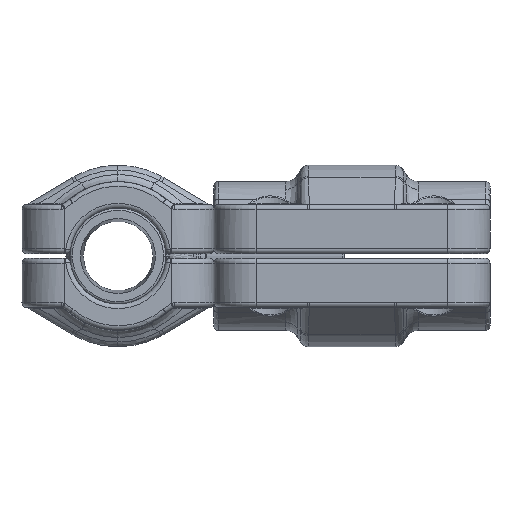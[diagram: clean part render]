
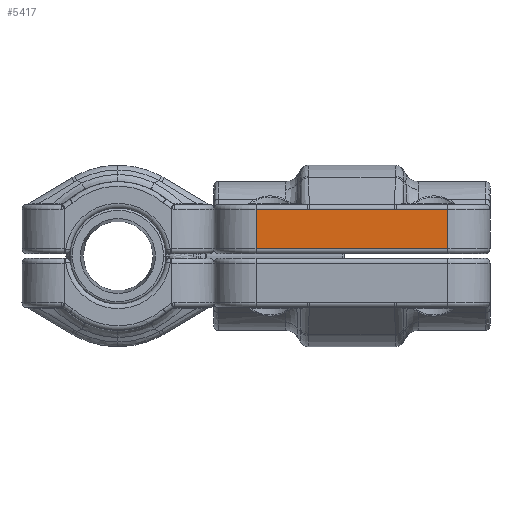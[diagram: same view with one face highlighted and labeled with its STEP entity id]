
A CAD part, left-side view. The second image highlights one B-rep face of the part: STEP entity #5417.
In plain terms, the highlighted planar face has unit normal (-1, 0, 0) as drawn and (0, -1, 0) by its records, which use the part's own axes.
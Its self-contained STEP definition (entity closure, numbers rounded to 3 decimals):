
#2464=DIRECTION('',(-1.,0.,0.));
#2465=VECTOR('',#2464,18.274);
#2466=CARTESIAN_POINT('',(9.137,-20.5,10.002));
#2467=LINE('',#2466,#2465);
#2473=CARTESIAN_POINT('',(9.569,-20.5,10.));
#2474=CARTESIAN_POINT('',(9.421,-20.5,10.));
#2475=CARTESIAN_POINT('',(9.279,-20.5,10.002));
#2476=CARTESIAN_POINT('',(9.137,-20.5,10.002));
#2584=CARTESIAN_POINT('',(-9.137,-20.5,
10.002));
#2585=CARTESIAN_POINT('',(-9.18,-20.5,
10.002));
#2586=CARTESIAN_POINT('',(-9.27,-20.5,
10.001));
#2587=CARTESIAN_POINT('',(-9.414,-20.5,
10.002));
#2588=CARTESIAN_POINT('',(-9.516,-20.5,
10.));
#2589=CARTESIAN_POINT('',(-9.569,-20.5,
10.));
#2595=DIRECTION('',(1.,0.,0.));
#2596=VECTOR('',#2595,41.);
#2597=CARTESIAN_POINT('',(-20.5,-20.5,1.5));
#2598=LINE('',#2597,#2596);
#2707=DIRECTION('',(0.,0.,1.));
#2708=VECTOR('',#2707,8.5);
#2709=CARTESIAN_POINT('',(20.5,-20.5,1.5));
#2710=LINE('',#2709,#2708);
#2774=DIRECTION('',(-1.,0.,0.));
#2775=VECTOR('',#2774,10.931);
#2776=CARTESIAN_POINT('',(20.5,-20.5,10.));
#2777=LINE('',#2776,#2775);
#3215=DIRECTION('',(-1.,0.,0.));
#3216=VECTOR('',#3215,10.931);
#3217=CARTESIAN_POINT('',(-9.569,-20.5,
10.));
#3218=LINE('',#3217,#3216);
#3223=DIRECTION('',(0.,0.,-1.));
#3224=VECTOR('',#3223,8.5);
#3225=CARTESIAN_POINT('',(-20.5,-20.5,10.));
#3226=LINE('',#3225,#3224);
#4833=CARTESIAN_POINT('',(-20.5,-20.5,1.5));
#4834=VERTEX_POINT('',#4833);
#4836=CARTESIAN_POINT('',(-20.5,-20.5,10.));
#4837=VERTEX_POINT('',#4836);
#4921=CARTESIAN_POINT('',(20.5,-20.5,1.5));
#4922=VERTEX_POINT('',#4921);
#4923=CARTESIAN_POINT('',(20.5,-20.5,10.));
#4924=VERTEX_POINT('',#4923);
#4925=CARTESIAN_POINT('',(-9.569,-20.5,
10.));
#4926=VERTEX_POINT('',#4925);
#4927=VERTEX_POINT('',#2584);
#4928=CARTESIAN_POINT('',(9.137,-20.5,10.002));
#4929=VERTEX_POINT('',#4928);
#4930=VERTEX_POINT('',#2473);
#5397=CARTESIAN_POINT('',(29.5,-20.5,11.));
#5398=DIRECTION('',(0.,1.,0.));
#5399=DIRECTION('',(1.,0.,0.));
#5400=AXIS2_PLACEMENT_3D('',#5397,#5398,#5399);
#5401=PLANE('',#5400);
#5403=ORIENTED_EDGE('',*,*,#5402,.F.);
#5405=ORIENTED_EDGE('',*,*,#5404,.F.);
#5407=ORIENTED_EDGE('',*,*,#5406,.F.);
#5408=ORIENTED_EDGE('',*,*,#5383,.F.);
#5409=ORIENTED_EDGE('',*,*,#5017,.F.);
#5410=ORIENTED_EDGE('',*,*,#5064,.F.);
#5412=ORIENTED_EDGE('',*,*,#5411,.F.);
#5414=ORIENTED_EDGE('',*,*,#5413,.F.);
#5415=EDGE_LOOP('',(#5403,#5405,#5407,#5408,#5409,#5410,#5412,#5414));
#5416=FACE_OUTER_BOUND('',#5415,.F.);
#2477=B_SPLINE_CURVE_WITH_KNOTS('',3,(#2473,#2474,#2475,#2476),.UNSPECIFIED.,
.F.,.F.,(4,4),(0.,1.),.UNSPECIFIED.);
#2590=B_SPLINE_CURVE_WITH_KNOTS('',3,(#2584,#2585,#2586,#2587,#2588,#2589),
.UNSPECIFIED.,.F.,.F.,(4,1,1,4),(0.,0.333,0.667,1.),
.UNSPECIFIED.);
#5017=EDGE_CURVE('',#4929,#4927,#2467,.T.);
#5064=EDGE_CURVE('',#4930,#4929,#2477,.T.);
#5383=EDGE_CURVE('',#4927,#4926,#2590,.T.);
#5402=EDGE_CURVE('',#4834,#4922,#2598,.T.);
#5404=EDGE_CURVE('',#4837,#4834,#3226,.T.);
#5406=EDGE_CURVE('',#4926,#4837,#3218,.T.);
#5411=EDGE_CURVE('',#4924,#4930,#2777,.T.);
#5413=EDGE_CURVE('',#4922,#4924,#2710,.T.);
#5417=ADVANCED_FACE('',(#5416),#5401,.F.);
